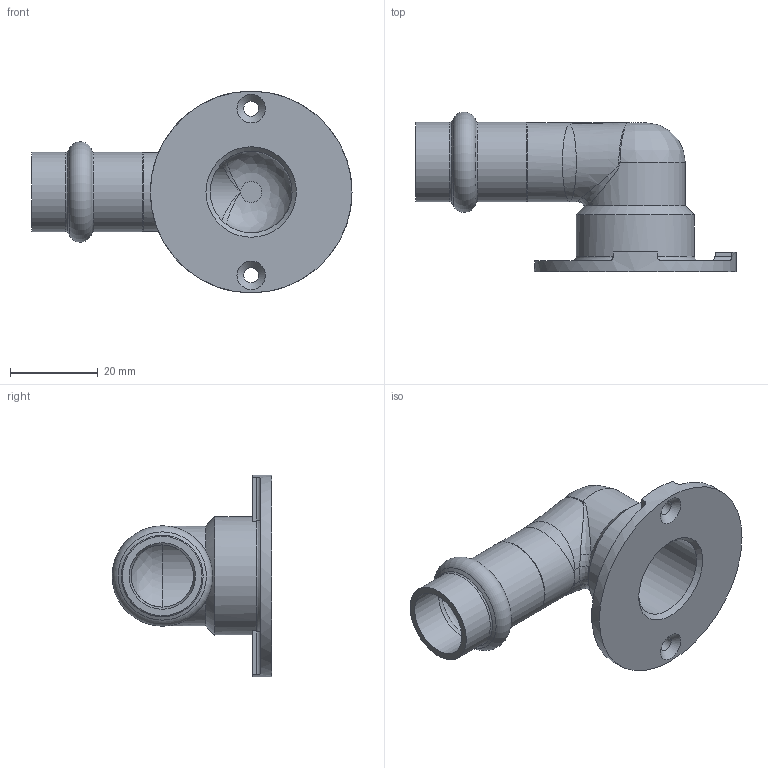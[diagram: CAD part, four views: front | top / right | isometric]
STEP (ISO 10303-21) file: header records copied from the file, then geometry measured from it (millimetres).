
FILE_DESCRIPTION((''),'2;1');
FILE_NAME('G:\Technics\CAD\Bauteile\015\694711512(1).stp','2008-01-30T15:30:42',('herberg'),(''),'Autodesk Inventor 2008','Autodesk Inventor 2008','');
FILE_SCHEMA(('AUTOMOTIVE_DESIGN { 1 0 10303 214 1 1 1 1 }'));
Length unit declared in the file: millimetre
Products named in the file (1): 694711512(1)
Bounding box: 73 x 36.45 x 46 mm (x, y, z)
Volume: 13524.2 mm3; surface area: 11846 mm2
Topology: 1 solids, 1 shells, 77 faces, 187 edges, 104 vertices
Faces by surface type: bspline 34, cylinder 17, plane 16, cone 7, torus 3
Full cylindrical faces by diameter (mm): 14.2 x1, 15.15 x2, 18 x1, 18.15 x2, 19 x1, 27 x1, 46 x1
Entity records: 4379 total; most frequent: CARTESIAN_POINT 2926, ORIENTED_EDGE 290, DIRECTION 245, EDGE_CURVE 145, EDGE_LOOP 110, AXIS2_PLACEMENT_3D 106, VERTEX_POINT 97, FACE_OUTER_BOUND 77
